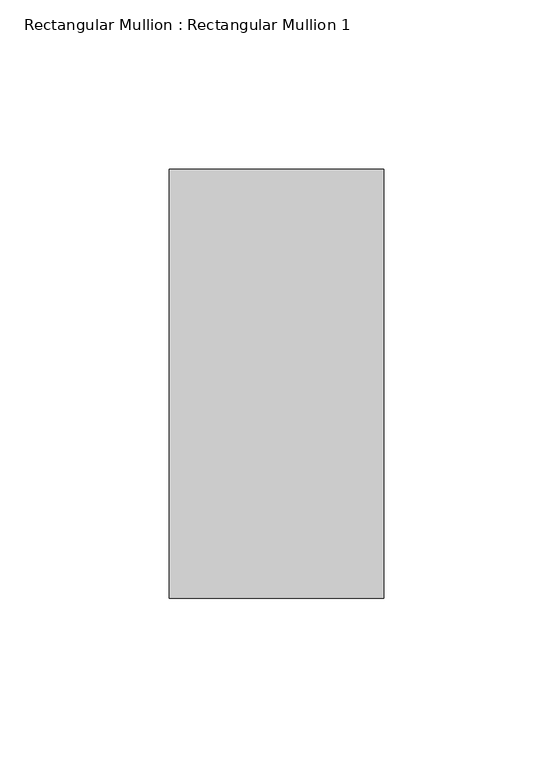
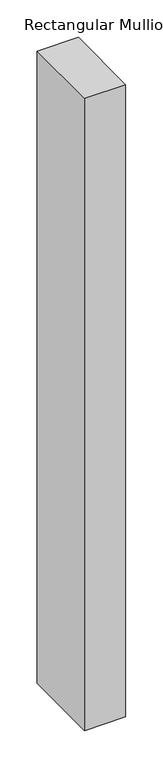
"""IFC4 building model written with IfcOpenShell, lengths in millimetres: member geometry, Rectangular Mullion : Rectangular Mullion 1."""

from ifc_helpers import new_model, si_unit, frame, origin, place, context, project, spatial, polyline, outline, extrude, source, transform, mapped, element, save


def rectangular_mullion_rectangular_mullion_1_8ba1deb4(model_context):
    return source(origin(), model_context, "Body", "SweptSolid", [
        extrude(outline(polyline([(31.75, 63.5), (31.75, -63.5), (-31.75, -63.5), (-31.75, 63.5), (31.75, 63.5)])), frame((0.0, 0.0, -1032.51), z_axis=(0.0, 0.0, 1.0), x_axis=(1.0, 0.0, 0.0)), (0.0, 0.0, 1.0), 1032.51),
    ])


if __name__ == "__main__":
    model = new_model("IFC4")
    model_context = context("Model", 3, world=origin())
    ifc_project = project(units=[si_unit("LENGTHUNIT", "METRE", prefix="MILLI")], contexts=[model_context])
    site = spatial("IfcSite", under=ifc_project)
    building = spatial("IfcBuilding", under=site)
    placement = place(None, origin())
    rectangular_mullion_rectangular_mullion_1_shape = rectangular_mullion_rectangular_mullion_1_8ba1deb4(model_context)
    element("IfcMember", 1, ObjectType="Rectangular Mullion : Rectangular Mullion 1", at=placement, inside=building, context=model_context, shape_type="MappedRepresentation", body=[
        mapped(rectangular_mullion_rectangular_mullion_1_shape, transform((0.0, 0.0, 0.0), x_axis=(1.0, 0.0, 0.0), y_axis=(0.0, 1.0, 0.0), z_axis=(0.0, 0.0, 1.0))),
    ])
    save(model, "model.ifc")
